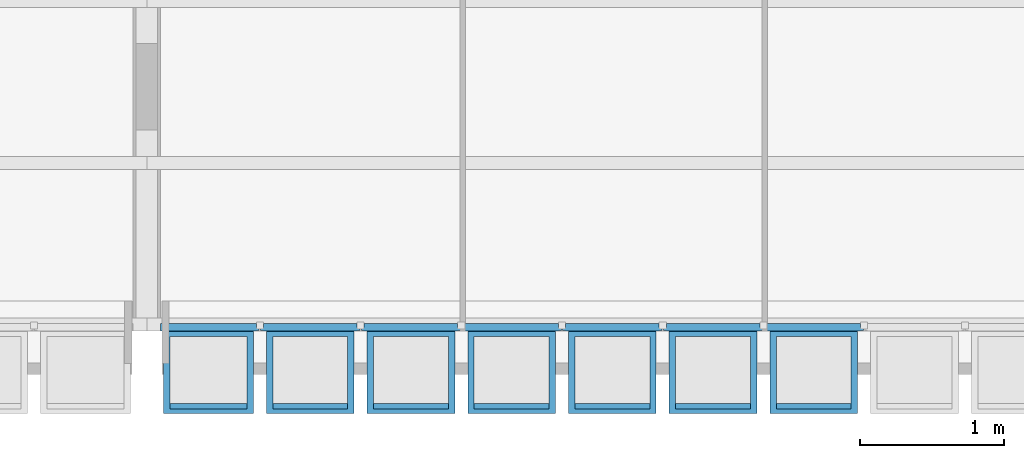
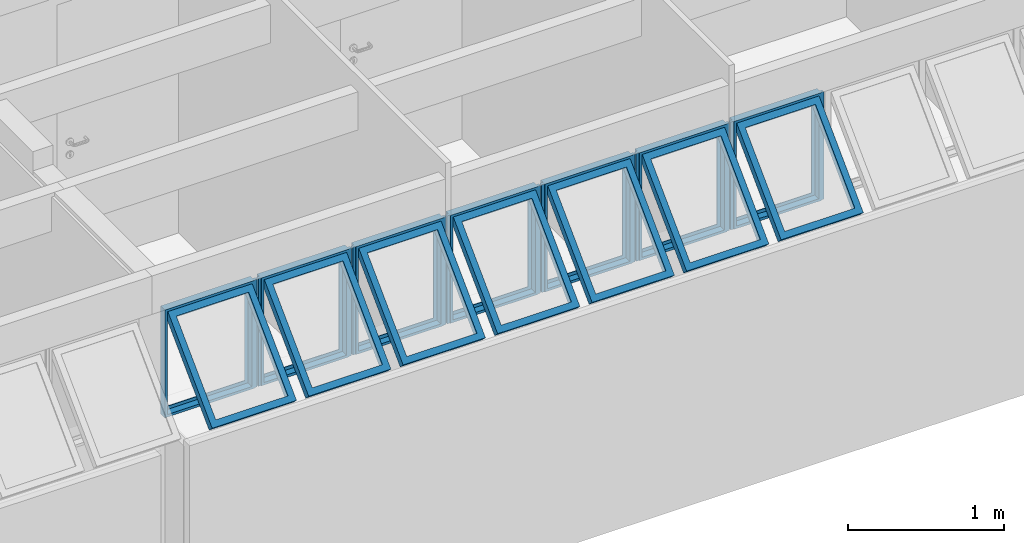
# One storey, part 28 of 38: 7 building element parts, 8 elements without a shape of their own.
"""IFC2X3 building model written with IfcOpenShell, lengths in millimetres."""

from ifc_helpers import new_model, entity, si_unit, converted_unit, derived_unit, money_unit, direction, frame, origin_with_axes, place, context, subcontext, project, spatial, faceted_brep, source, transform, mapped, material, type_object, element, aggregate, save


model = new_model("IFC2X3")

# Units and contexts
model_context = context("Model", 3, precision=0.01, world=origin_with_axes(), true_north=direction((0.0, 1.0)))
body_context = subcontext(model_context, "Body", "Model", "MODEL_VIEW")
ifc_project = project(units=[si_unit("LENGTHUNIT", "METRE", prefix="MILLI"), si_unit("AREAUNIT", "SQUARE_METRE"), si_unit("VOLUMEUNIT", "CUBIC_METRE"), converted_unit("PLANEANGLEUNIT", "DEGREE", entity("IfcPlaneAngleMeasure", 0.0174532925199), si_unit("PLANEANGLEUNIT", "RADIAN"), dimensions=[0, 0, 0, 0, 0, 0, 0]), money_unit("USD"), converted_unit("TIMEUNIT", "Year", entity("IfcTimeMeasure", 31556926.0), si_unit("TIMEUNIT", "SECOND"), dimensions=[0, 0, 1, 0, 0, 0, 0]), si_unit("MASSUNIT", "GRAM", prefix="KILO"), si_unit("THERMODYNAMICTEMPERATUREUNIT", "DEGREE_CELSIUS"), si_unit("LUMINOUSINTENSITYUNIT", "LUMEN"), si_unit("ENERGYUNIT", "JOULE", prefix="MEGA"), derived_unit("THERMALCONDUCTANCEUNIT", [(si_unit("POWERUNIT", "WATT"), 1), (si_unit("LENGTHUNIT", "METRE"), -1), (si_unit("THERMODYNAMICTEMPERATUREUNIT", "KELVIN"), -1)]), derived_unit("SPECIFICHEATCAPACITYUNIT", [(si_unit("ENERGYUNIT", "JOULE"), 1), (si_unit("MASSUNIT", "GRAM", prefix="KILO"), -1), (si_unit("THERMODYNAMICTEMPERATUREUNIT", "KELVIN"), -1)]), derived_unit("MASSDENSITYUNIT", [(si_unit("MASSUNIT", "GRAM", prefix="KILO"), 1), (si_unit("VOLUMEUNIT", "CUBIC_METRE"), -1)])], contexts=[model_context])

# Site, building, storey
site_placement = place(None, origin_with_axes())
site = spatial("IfcSite", under=ifc_project, at=site_placement, Name="Local", CompositionType="ELEMENT")
building_placement = place(site_placement, origin_with_axes())
building = spatial("IfcBuilding", under=site, at=building_placement, Name="Construção", CompositionType="ELEMENT")
storey_placement = place(building_placement, frame((0.0, 0.0, 2650.0), z_axis=(0.0, 0.0, 1.0), x_axis=(1.0, 0.0, 0.0)))
storey = spatial("IfcBuildingStorey", under=building, at=storey_placement, Name="Segundo Pavimento", CompositionType="ELEMENT", Elevation=2650.0)

# Window, plates, building element parts
window_style = type_object("IfcWindowStyle", Name="Tipo de Parede Cortina", ConstructionType="NOTDEFINED", OperationType="NOTDEFINED", ParameterTakesPrecedence=False, Sizeable=False)
window_placement = place(storey_placement, frame((8520.0, 315.020977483, 1355.02054151), z_axis=(0.0, 0.0, 1.0), x_axis=(1.0, 0.0, 0.0)))
window = element("IfcWindow", 1, at=window_placement, inside=storey, type_object=window_style, Name="APTO6-JANELA-001")
plate_type_1 = type_object("IfcPlateType", Name="Painel Principal 690 x 845 x 20", PredefinedType="CURTAIN_PANEL")
plate_1_placement = place(window_placement, frame((0.0, 0.0, 422.499945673), z_axis=(0.0, 0.0, 1.0), x_axis=(1.0, 0.0, 0.0)))
plate_1 = element("IfcPlate", 2, at=plate_1_placement, type_object=plate_type_1, Name="APTO6-Painel-Prin-030")
ifc_material = material(Name="Alumínio")
shared_shape_1 = source(origin_with_axes(), body_context, "Body", "Brep", [
    faceted_brep([(-25.0000036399, 0.0, -40.0), (-25.0000036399, 0.0, -35.0), (-674.999997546, 0.0, -35.0), (-674.999997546, 0.0, -40.0), (-70.0000036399, 45.0, -40.0), (-70.0000036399, 45.0, -35.0), (-629.999997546, 45.0, -35.0), (-629.999997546, 45.0, -40.0)], [[[0, 1, 2, 3]], [[4, 5, 1, 0]], [[1, 5, 6, 2]], [[3, 2, 6, 7]], [[0, 3, 7, 4]], [[7, 6, 5, 4]]]),
    faceted_brep([(-674.999997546, 0.0, -40.0), (-674.999997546, 0.0, -35.0), (-674.999997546, 844.999891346, -35.0), (-674.999997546, 844.999891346, -40.0), (-629.999997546, 45.0, -40.0), (-629.999997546, 45.0, -35.0), (-629.999997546, 799.999891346, -35.0), (-629.999997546, 799.999891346, -40.0)], [[[0, 1, 2, 3]], [[4, 5, 1, 0]], [[1, 5, 6, 2]], [[3, 2, 6, 7]], [[0, 3, 7, 4]], [[7, 6, 5, 4]]]),
    faceted_brep([(-25.0000036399, 844.999891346, -40.0), (-25.0000036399, 844.999891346, -35.0), (-70.0000036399, 799.999891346, -35.0), (-70.0000036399, 799.999891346, -40.0), (-674.999997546, 844.999891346, -40.0), (-674.999997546, 844.999891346, -35.0), (-629.999997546, 799.999891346, -35.0), (-629.999997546, 799.999891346, -40.0)], [[[0, 1, 2, 3]], [[4, 5, 1, 0]], [[1, 5, 6, 2]], [[3, 2, 6, 7]], [[0, 3, 7, 4]], [[7, 6, 5, 4]]]),
    faceted_brep([(-25.0000036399, 0.0, -40.0), (-25.0000036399, 0.0, -35.0), (-70.0000036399, 45.0, -35.0), (-70.0000036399, 45.0, -40.0), (-25.0000036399, 844.999891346, -40.0), (-25.0000036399, 844.999891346, -35.0), (-70.0000036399, 799.999891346, -35.0), (-70.0000036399, 799.999891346, -40.0)], [[[0, 1, 2, 3]], [[4, 5, 1, 0]], [[1, 5, 6, 2]], [[3, 2, 6, 7]], [[0, 3, 7, 4]], [[7, 6, 5, 4]]]),
    faceted_brep([(-25.0000036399, 0.0, -35.0), (-25.0000036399, 0.0, 15.0), (-674.999997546, 0.0, 15.0), (-674.999997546, 0.0, -35.0), (-45.0000036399, 20.0, -35.0), (-45.0000036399, 20.0, 15.0), (-654.999997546, 20.0, 15.0), (-654.999997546, 20.0, -35.0)], [[[0, 1, 2, 3]], [[4, 5, 1, 0]], [[1, 5, 6, 2]], [[3, 2, 6, 7]], [[0, 3, 7, 4]], [[7, 6, 5, 4]]]),
    faceted_brep([(-674.999997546, 0.0, -35.0), (-674.999997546, 0.0, 15.0), (-674.999997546, 844.999891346, 15.0), (-674.999997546, 844.999891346, -35.0), (-654.999997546, 20.0, -35.0), (-654.999997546, 20.0, 15.0), (-654.999997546, 824.999891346, 15.0), (-654.999997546, 824.999891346, -35.0)], [[[0, 1, 2, 3]], [[4, 5, 1, 0]], [[1, 5, 6, 2]], [[3, 2, 6, 7]], [[0, 3, 7, 4]], [[7, 6, 5, 4]]]),
    faceted_brep([(-25.0000036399, 844.999891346, -35.0), (-25.0000036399, 844.999891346, 15.0), (-45.0000036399, 824.999891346, 15.0), (-45.0000036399, 824.999891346, -35.0), (-674.999997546, 844.999891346, -35.0), (-674.999997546, 844.999891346, 15.0), (-654.999997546, 824.999891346, 15.0), (-654.999997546, 824.999891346, -35.0)], [[[0, 1, 2, 3]], [[4, 5, 1, 0]], [[1, 5, 6, 2]], [[3, 2, 6, 7]], [[0, 3, 7, 4]], [[7, 6, 5, 4]]]),
    faceted_brep([(-25.0000036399, 0.0, -35.0), (-25.0000036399, 0.0, 15.0), (-45.0000036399, 20.0, 15.0), (-45.0000036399, 20.0, -35.0), (-25.0000036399, 844.999891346, -35.0), (-25.0000036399, 844.999891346, 15.0), (-45.0000036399, 824.999891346, 15.0), (-45.0000036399, 824.999891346, -35.0)], [[[0, 1, 2, 3]], [[4, 5, 1, 0]], [[1, 5, 6, 2]], [[3, 2, 6, 7]], [[0, 3, 7, 4]], [[7, 6, 5, 4]]]),
    faceted_brep([(-694.999995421, 0.0, -10.0), (-694.999995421, 0.0, 10.0), (-694.999995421, 844.999891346, 10.0), (-694.999995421, 844.999891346, -10.0), (-674.999997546, 0.0, -10.0), (-674.999997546, 0.0, 10.0), (-674.999997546, 844.999891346, 10.0), (-674.999997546, 844.999891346, -10.0)], [[[0, 1, 2, 3]], [[4, 5, 1, 0]], [[1, 5, 6, 2]], [[3, 2, 6, 7]], [[0, 3, 7, 4]], [[7, 6, 5, 4]]]),
    faceted_brep([(-5.00000576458, 844.999891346, -10.0), (-5.00000576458, 844.999891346, 10.0), (-5.00000576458, 0.0, 10.0), (-5.00000576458, 0.0, -10.0), (-25.0000036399, 844.999891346, -10.0), (-25.0000036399, 844.999891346, 10.0), (-25.0000036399, 0.0, 10.0), (-25.0000036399, 0.0, -10.0)], [[[0, 1, 2, 3]], [[4, 5, 1, 0]], [[1, 5, 6, 2]], [[3, 2, 6, 7]], [[0, 3, 7, 4]], [[7, 6, 5, 4]]]),
    faceted_brep([(-90.0000036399, 252.243475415, 517.045737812), (-90.0000036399, 291.13434838, 555.936610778), (-90.0000036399, 796.715620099, 50.3553390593), (-90.0000036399, 757.824747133, 11.4644660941), (-45.0000036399, 220.423670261, 548.865542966), (-45.0000036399, 259.314543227, 587.756415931), (-45.0000036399, 828.535425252, 18.5355339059), (-45.0000036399, 789.644552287, -20.3553390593)], [[[0, 1, 2, 3]], [[4, 5, 1, 0]], [[1, 5, 6, 2]], [[3, 2, 6, 7]], [[0, 3, 7, 4]], [[7, 6, 5, 4]]]),
    faceted_brep([(-654.999997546, 220.423670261, 548.865542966), (-654.999997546, 259.314543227, 587.756415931), (-654.999997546, 828.535425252, 18.5355339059), (-654.999997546, 789.644552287, -20.3553390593), (-609.999997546, 252.243475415, 517.045737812), (-609.999997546, 291.13434838, 555.936610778), (-609.999997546, 796.715620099, 50.3553390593), (-609.999997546, 757.824747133, 11.4644660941)], [[[0, 1, 2, 3]], [[4, 5, 1, 0]], [[1, 5, 6, 2]], [[3, 2, 6, 7]], [[0, 3, 7, 4]], [[7, 6, 5, 4]]]),
    faceted_brep([(-654.999997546, 220.423670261, 548.865542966), (-654.999997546, 259.314543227, 587.756415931), (-609.999997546, 291.13434838, 555.936610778), (-609.999997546, 252.243475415, 517.045737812), (-45.0000036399, 220.423670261, 548.865542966), (-45.0000036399, 259.314543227, 587.756415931), (-90.0000036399, 291.13434838, 555.936610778), (-90.0000036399, 252.243475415, 517.045737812)], [[[0, 1, 2, 3]], [[4, 5, 1, 0]], [[1, 5, 6, 2]], [[3, 2, 6, 7]], [[0, 3, 7, 4]], [[7, 6, 5, 4]]]),
    faceted_brep([(-45.0000036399, 789.644552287, -20.3553390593), (-45.0000036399, 828.535425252, 18.5355339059), (-90.0000036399, 796.715620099, 50.3553390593), (-90.0000036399, 757.824747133, 11.4644660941), (-654.999997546, 789.644552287, -20.3553390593), (-654.999997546, 828.535425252, 18.5355339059), (-609.999997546, 796.715620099, 50.3553390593), (-609.999997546, 757.824747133, 11.4644660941)], [[[0, 1, 2, 3]], [[4, 5, 1, 0]], [[1, 5, 6, 2]], [[3, 2, 6, 7]], [[0, 3, 7, 4]], [[7, 6, 5, 4]]]),
])
building_element_part_1_placement = place(plate_1_placement, origin_with_axes())
building_element_part_1 = element("IfcBuildingElementPart", 3, at=building_element_part_1_placement, material=ifc_material, Name="Alumínio", context=body_context, shape_type="MappedRepresentation", body=[
    mapped(shared_shape_1, transform((350.0, 0.0, -422.499945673), x_axis=(1.0, 0.0, 0.0), y_axis=(0.0, 0.0, 1.0), z_axis=(0.0, -1.0, 0.0))),
])
aggregate(plate_1, [building_element_part_1])
plate_2_placement = place(window_placement, frame((700.0, 0.0, 422.499945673), z_axis=(0.0, 0.0, 1.0), x_axis=(1.0, 0.0, 0.0)))
plate_2 = element("IfcPlate", 4, at=plate_2_placement, type_object=plate_type_1, Name="APTO6-Painel-Prin-020")
building_element_part_2_placement = place(plate_2_placement, origin_with_axes())
building_element_part_2 = element("IfcBuildingElementPart", 5, at=building_element_part_2_placement, material=ifc_material, Name="Alumínio", context=body_context, shape_type="MappedRepresentation", body=[
    mapped(shared_shape_1, transform((350.0, 0.0, -422.499945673), x_axis=(1.0, 0.0, 0.0), y_axis=(0.0, 0.0, 1.0), z_axis=(0.0, -1.0, 0.0))),
])
aggregate(plate_2, [building_element_part_2])
plate_3_placement = place(window_placement, frame((1400.0, 0.0, 422.499945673), z_axis=(0.0, 0.0, 1.0), x_axis=(1.0, 0.0, 0.0)))
plate_3 = element("IfcPlate", 6, at=plate_3_placement, type_object=plate_type_1, Name="APTO6-Painel-Prin-029")
building_element_part_3_placement = place(plate_3_placement, origin_with_axes())
building_element_part_3 = element("IfcBuildingElementPart", 7, at=building_element_part_3_placement, material=ifc_material, Name="Alumínio", context=body_context, shape_type="MappedRepresentation", body=[
    mapped(shared_shape_1, transform((350.0, 0.0, -422.499945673), x_axis=(1.0, 0.0, 0.0), y_axis=(0.0, 0.0, 1.0), z_axis=(0.0, -1.0, 0.0))),
])
aggregate(plate_3, [building_element_part_3])
plate_4_placement = place(window_placement, frame((3500.0, 0.0, 422.499945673), z_axis=(0.0, 0.0, 1.0), x_axis=(1.0, 0.0, 0.0)))
plate_4 = element("IfcPlate", 8, at=plate_4_placement, type_object=plate_type_1, Name="APTO6-Painel-Prin-013")
building_element_part_4_placement = place(plate_4_placement, origin_with_axes())
building_element_part_4 = element("IfcBuildingElementPart", 9, at=building_element_part_4_placement, material=ifc_material, Name="Alumínio", context=body_context, shape_type="MappedRepresentation", body=[
    mapped(shared_shape_1, transform((350.0, 0.0, -422.499945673), x_axis=(1.0, 0.0, 0.0), y_axis=(0.0, 0.0, 1.0), z_axis=(0.0, -1.0, 0.0))),
])
aggregate(plate_4, [building_element_part_4])
plate_5_placement = place(window_placement, frame((2100.0, 0.0, 422.499945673), z_axis=(0.0, 0.0, 1.0), x_axis=(1.0, 0.0, 0.0)))
plate_5 = element("IfcPlate", 10, at=plate_5_placement, type_object=plate_type_1, Name="APTO6-Painel-Prin-025")
shared_shape_2 = source(origin_with_axes(), body_context, "Body", "Brep", [
    faceted_brep([(-25.0000036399, 0.0, -40.0), (-25.0000036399, 0.0, -35.0), (-674.999997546, 0.0, -35.0), (-674.999997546, 0.0, -40.0), (-70.0000036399, 45.0, -40.0), (-70.0000036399, 45.0, -35.0), (-629.999997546, 45.0, -35.0), (-629.999997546, 45.0, -40.0)], [[[0, 1, 2, 3]], [[4, 5, 1, 0]], [[1, 5, 6, 2]], [[3, 2, 6, 7]], [[0, 3, 7, 4]], [[7, 6, 5, 4]]]),
    faceted_brep([(-674.999997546, 0.0, -40.0), (-674.999997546, 0.0, -35.0), (-674.999997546, 844.999891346, -35.0), (-674.999997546, 844.999891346, -40.0), (-629.999997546, 45.0, -40.0), (-629.999997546, 45.0, -35.0), (-629.999997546, 799.999891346, -35.0), (-629.999997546, 799.999891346, -40.0)], [[[0, 1, 2, 3]], [[4, 5, 1, 0]], [[1, 5, 6, 2]], [[3, 2, 6, 7]], [[0, 3, 7, 4]], [[7, 6, 5, 4]]]),
    faceted_brep([(-25.0000036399, 844.999891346, -40.0), (-25.0000036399, 844.999891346, -35.0), (-70.0000036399, 799.999891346, -35.0), (-70.0000036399, 799.999891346, -40.0), (-674.999997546, 844.999891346, -40.0), (-674.999997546, 844.999891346, -35.0), (-629.999997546, 799.999891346, -35.0), (-629.999997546, 799.999891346, -40.0)], [[[0, 1, 2, 3]], [[4, 5, 1, 0]], [[1, 5, 6, 2]], [[3, 2, 6, 7]], [[0, 3, 7, 4]], [[7, 6, 5, 4]]]),
    faceted_brep([(-25.0000036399, 0.0, -40.0), (-25.0000036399, 0.0, -35.0), (-70.0000036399, 45.0, -35.0), (-70.0000036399, 45.0, -40.0), (-25.0000036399, 844.999891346, -40.0), (-25.0000036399, 844.999891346, -35.0), (-70.0000036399, 799.999891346, -35.0), (-70.0000036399, 799.999891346, -40.0)], [[[0, 1, 2, 3]], [[4, 5, 1, 0]], [[1, 5, 6, 2]], [[3, 2, 6, 7]], [[0, 3, 7, 4]], [[7, 6, 5, 4]]]),
    faceted_brep([(-25.0000036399, 0.0, -35.0), (-25.0000036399, 0.0, 15.0), (-674.999997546, 0.0, 15.0), (-674.999997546, 0.0, -35.0), (-45.0000036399, 20.0, -35.0), (-45.0000036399, 20.0, 15.0), (-654.999997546, 20.0, 15.0), (-654.999997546, 20.0, -35.0)], [[[0, 1, 2, 3]], [[4, 5, 1, 0]], [[1, 5, 6, 2]], [[3, 2, 6, 7]], [[0, 3, 7, 4]], [[7, 6, 5, 4]]]),
    faceted_brep([(-674.999997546, 0.0, -35.0), (-674.999997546, 0.0, 15.0), (-674.999997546, 844.999891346, 15.0), (-674.999997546, 844.999891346, -35.0), (-654.999997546, 20.0, -35.0), (-654.999997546, 20.0, 15.0), (-654.999997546, 824.999891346, 15.0), (-654.999997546, 824.999891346, -35.0)], [[[0, 1, 2, 3]], [[4, 5, 1, 0]], [[1, 5, 6, 2]], [[3, 2, 6, 7]], [[0, 3, 7, 4]], [[7, 6, 5, 4]]]),
    faceted_brep([(-25.0000036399, 844.999891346, -35.0), (-25.0000036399, 844.999891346, 15.0), (-45.0000036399, 824.999891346, 15.0), (-45.0000036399, 824.999891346, -35.0), (-674.999997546, 844.999891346, -35.0), (-674.999997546, 844.999891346, 15.0), (-654.999997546, 824.999891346, 15.0), (-654.999997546, 824.999891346, -35.0)], [[[0, 1, 2, 3]], [[4, 5, 1, 0]], [[1, 5, 6, 2]], [[3, 2, 6, 7]], [[0, 3, 7, 4]], [[7, 6, 5, 4]]]),
    faceted_brep([(-25.0000036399, 0.0, -35.0), (-25.0000036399, 0.0, 15.0), (-45.0000036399, 20.0, 15.0), (-45.0000036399, 20.0, -35.0), (-25.0000036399, 844.999891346, -35.0), (-25.0000036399, 844.999891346, 15.0), (-45.0000036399, 824.999891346, 15.0), (-45.0000036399, 824.999891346, -35.0)], [[[0, 1, 2, 3]], [[4, 5, 1, 0]], [[1, 5, 6, 2]], [[3, 2, 6, 7]], [[0, 3, 7, 4]], [[7, 6, 5, 4]]]),
    faceted_brep([(-694.999995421, 0.0, -10.0), (-694.999995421, 0.0, 10.0), (-694.999995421, 844.999891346, 10.0), (-694.999995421, 844.999891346, -10.0), (-674.999997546, 0.0, -10.0), (-674.999997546, 0.0, 10.0), (-674.999997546, 844.999891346, 10.0), (-674.999997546, 844.999891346, -10.0)], [[[0, 1, 2, 3]], [[4, 5, 1, 0]], [[1, 5, 6, 2]], [[3, 2, 6, 7]], [[0, 3, 7, 4]], [[7, 6, 5, 4]]]),
    faceted_brep([(-5.00000576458, 844.999891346, -10.0), (-5.00000576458, 844.999891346, 10.0), (-5.00000576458, 0.0, 10.0), (-5.00000576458, 0.0, -10.0), (-25.0000036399, 844.999891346, -10.0), (-25.0000036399, 844.999891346, 10.0), (-25.0000036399, 0.0, 10.0), (-25.0000036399, 0.0, -10.0)], [[[0, 1, 2, 3]], [[4, 5, 1, 0]], [[1, 5, 6, 2]], [[3, 2, 6, 7]], [[0, 3, 7, 4]], [[7, 6, 5, 4]]]),
    faceted_brep([(-90.0000036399, 252.243475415, 517.045737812), (-90.0000036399, 291.13434838, 555.936610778), (-90.0000036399, 796.715620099, 50.3553390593), (-90.0000036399, 757.824747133, 11.4644660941), (-45.0000036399, 220.423670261, 548.865542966), (-45.0000036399, 259.314543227, 587.756415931), (-45.0000036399, 828.535425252, 18.5355339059), (-45.0000036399, 789.644552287, -20.3553390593)], [[[0, 1, 2, 3]], [[4, 5, 1, 0]], [[1, 5, 6, 2]], [[3, 2, 6, 7]], [[0, 3, 7, 4]], [[7, 6, 5, 4]]]),
    faceted_brep([(-654.999997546, 220.423670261, 548.865542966), (-654.999997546, 259.314543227, 587.756415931), (-654.999997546, 828.535425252, 18.5355339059), (-654.999997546, 789.644552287, -20.3553390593), (-609.999997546, 252.243475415, 517.045737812), (-609.999997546, 291.13434838, 555.936610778), (-609.999997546, 796.715620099, 50.3553390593), (-609.999997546, 757.824747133, 11.4644660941)], [[[0, 1, 2, 3]], [[4, 5, 1, 0]], [[1, 5, 6, 2]], [[3, 2, 6, 7]], [[0, 3, 7, 4]], [[7, 6, 5, 4]]]),
    faceted_brep([(-654.999997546, 220.423670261, 548.865542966), (-654.999997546, 259.314543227, 587.756415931), (-609.999997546, 291.13434838, 555.936610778), (-609.999997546, 252.243475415, 517.045737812), (-45.0000036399, 220.423670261, 548.865542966), (-45.0000036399, 259.314543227, 587.756415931), (-90.0000036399, 291.13434838, 555.936610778), (-90.0000036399, 252.243475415, 517.045737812)], [[[0, 1, 2, 3]], [[4, 5, 1, 0]], [[1, 5, 6, 2]], [[3, 2, 6, 7]], [[0, 3, 7, 4]], [[7, 6, 5, 4]]]),
    faceted_brep([(-45.0000036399, 789.644552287, -20.3553390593), (-45.0000036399, 828.535425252, 18.5355339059), (-90.0000036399, 796.715620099, 50.3553390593), (-90.0000036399, 757.824747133, 11.4644660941), (-654.999997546, 789.644552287, -20.3553390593), (-654.999997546, 828.535425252, 18.5355339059), (-609.999997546, 796.715620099, 50.3553390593), (-609.999997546, 757.824747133, 11.4644660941)], [[[0, 1, 2, 3]], [[4, 5, 1, 0]], [[1, 5, 6, 2]], [[3, 2, 6, 7]], [[0, 3, 7, 4]], [[7, 6, 5, 4]]]),
])
building_element_part_5_placement = place(plate_5_placement, origin_with_axes())
building_element_part_5 = element("IfcBuildingElementPart", 11, at=building_element_part_5_placement, material=ifc_material, Name="Alumínio", context=body_context, shape_type="MappedRepresentation", body=[
    mapped(shared_shape_2, transform((350.0, 0.0, -422.499945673), x_axis=(1.0, 0.0, 0.0), y_axis=(0.0, 0.0, 1.0), z_axis=(0.0, -1.0, 0.0))),
])
aggregate(plate_5, [building_element_part_5])
plate_6_placement = place(window_placement, frame((2800.0, 0.0, 422.499945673), z_axis=(0.0, 0.0, 1.0), x_axis=(1.0, 0.0, 0.0)))
plate_6 = element("IfcPlate", 12, at=plate_6_placement, type_object=plate_type_1, Name="APTO6-Painel-Prin-013")
shared_shape_3 = source(origin_with_axes(), body_context, "Body", "Brep", [
    faceted_brep([(-25.0000036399, 0.0, -40.0), (-25.0000036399, 0.0, -35.0), (-674.999997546, 0.0, -35.0), (-674.999997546, 0.0, -40.0), (-70.0000036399, 45.0, -40.0), (-70.0000036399, 45.0, -35.0), (-629.999997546, 45.0, -35.0), (-629.999997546, 45.0, -40.0)], [[[0, 1, 2, 3]], [[4, 5, 1, 0]], [[1, 5, 6, 2]], [[3, 2, 6, 7]], [[0, 3, 7, 4]], [[7, 6, 5, 4]]]),
    faceted_brep([(-674.999997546, 0.0, -40.0), (-674.999997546, 0.0, -35.0), (-674.999997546, 844.999891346, -35.0), (-674.999997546, 844.999891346, -40.0), (-629.999997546, 45.0, -40.0), (-629.999997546, 45.0, -35.0), (-629.999997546, 799.999891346, -35.0), (-629.999997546, 799.999891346, -40.0)], [[[0, 1, 2, 3]], [[4, 5, 1, 0]], [[1, 5, 6, 2]], [[3, 2, 6, 7]], [[0, 3, 7, 4]], [[7, 6, 5, 4]]]),
    faceted_brep([(-25.0000036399, 844.999891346, -40.0), (-25.0000036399, 844.999891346, -35.0), (-70.0000036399, 799.999891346, -35.0), (-70.0000036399, 799.999891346, -40.0), (-674.999997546, 844.999891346, -40.0), (-674.999997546, 844.999891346, -35.0), (-629.999997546, 799.999891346, -35.0), (-629.999997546, 799.999891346, -40.0)], [[[0, 1, 2, 3]], [[4, 5, 1, 0]], [[1, 5, 6, 2]], [[3, 2, 6, 7]], [[0, 3, 7, 4]], [[7, 6, 5, 4]]]),
    faceted_brep([(-25.0000036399, 0.0, -40.0), (-25.0000036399, 0.0, -35.0), (-70.0000036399, 45.0, -35.0), (-70.0000036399, 45.0, -40.0), (-25.0000036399, 844.999891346, -40.0), (-25.0000036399, 844.999891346, -35.0), (-70.0000036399, 799.999891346, -35.0), (-70.0000036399, 799.999891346, -40.0)], [[[0, 1, 2, 3]], [[4, 5, 1, 0]], [[1, 5, 6, 2]], [[3, 2, 6, 7]], [[0, 3, 7, 4]], [[7, 6, 5, 4]]]),
    faceted_brep([(-25.0000036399, 0.0, -35.0), (-25.0000036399, 0.0, 15.0), (-674.999997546, 0.0, 15.0), (-674.999997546, 0.0, -35.0), (-45.0000036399, 20.0, -35.0), (-45.0000036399, 20.0, 15.0), (-654.999997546, 20.0, 15.0), (-654.999997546, 20.0, -35.0)], [[[0, 1, 2, 3]], [[4, 5, 1, 0]], [[1, 5, 6, 2]], [[3, 2, 6, 7]], [[0, 3, 7, 4]], [[7, 6, 5, 4]]]),
    faceted_brep([(-674.999997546, 0.0, -35.0), (-674.999997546, 0.0, 15.0), (-674.999997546, 844.999891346, 15.0), (-674.999997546, 844.999891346, -35.0), (-654.999997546, 20.0, -35.0), (-654.999997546, 20.0, 15.0), (-654.999997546, 824.999891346, 15.0), (-654.999997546, 824.999891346, -35.0)], [[[0, 1, 2, 3]], [[4, 5, 1, 0]], [[1, 5, 6, 2]], [[3, 2, 6, 7]], [[0, 3, 7, 4]], [[7, 6, 5, 4]]]),
    faceted_brep([(-25.0000036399, 844.999891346, -35.0), (-25.0000036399, 844.999891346, 15.0), (-45.0000036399, 824.999891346, 15.0), (-45.0000036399, 824.999891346, -35.0), (-674.999997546, 844.999891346, -35.0), (-674.999997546, 844.999891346, 15.0), (-654.999997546, 824.999891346, 15.0), (-654.999997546, 824.999891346, -35.0)], [[[0, 1, 2, 3]], [[4, 5, 1, 0]], [[1, 5, 6, 2]], [[3, 2, 6, 7]], [[0, 3, 7, 4]], [[7, 6, 5, 4]]]),
    faceted_brep([(-25.0000036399, 0.0, -35.0), (-25.0000036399, 0.0, 15.0), (-45.0000036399, 20.0, 15.0), (-45.0000036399, 20.0, -35.0), (-25.0000036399, 844.999891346, -35.0), (-25.0000036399, 844.999891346, 15.0), (-45.0000036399, 824.999891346, 15.0), (-45.0000036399, 824.999891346, -35.0)], [[[0, 1, 2, 3]], [[4, 5, 1, 0]], [[1, 5, 6, 2]], [[3, 2, 6, 7]], [[0, 3, 7, 4]], [[7, 6, 5, 4]]]),
    faceted_brep([(-694.999995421, 0.0, -10.0), (-694.999995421, 0.0, 10.0), (-694.999995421, 844.999891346, 10.0), (-694.999995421, 844.999891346, -10.0), (-674.999997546, 0.0, -10.0), (-674.999997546, 0.0, 10.0), (-674.999997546, 844.999891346, 10.0), (-674.999997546, 844.999891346, -10.0)], [[[0, 1, 2, 3]], [[4, 5, 1, 0]], [[1, 5, 6, 2]], [[3, 2, 6, 7]], [[0, 3, 7, 4]], [[7, 6, 5, 4]]]),
    faceted_brep([(-5.00000576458, 844.999891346, -10.0), (-5.00000576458, 844.999891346, 10.0), (-5.00000576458, 0.0, 10.0), (-5.00000576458, 0.0, -10.0), (-25.0000036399, 844.999891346, -10.0), (-25.0000036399, 844.999891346, 10.0), (-25.0000036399, 0.0, 10.0), (-25.0000036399, 0.0, -10.0)], [[[0, 1, 2, 3]], [[4, 5, 1, 0]], [[1, 5, 6, 2]], [[3, 2, 6, 7]], [[0, 3, 7, 4]], [[7, 6, 5, 4]]]),
    faceted_brep([(-90.0000036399, 252.243475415, 517.045737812), (-90.0000036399, 291.13434838, 555.936610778), (-90.0000036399, 796.715620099, 50.3553390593), (-90.0000036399, 757.824747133, 11.4644660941), (-45.0000036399, 220.423670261, 548.865542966), (-45.0000036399, 259.314543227, 587.756415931), (-45.0000036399, 828.535425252, 18.5355339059), (-45.0000036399, 789.644552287, -20.3553390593)], [[[0, 1, 2, 3]], [[4, 5, 1, 0]], [[1, 5, 6, 2]], [[3, 2, 6, 7]], [[0, 3, 7, 4]], [[7, 6, 5, 4]]]),
    faceted_brep([(-654.999997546, 220.423670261, 548.865542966), (-654.999997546, 259.314543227, 587.756415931), (-654.999997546, 828.535425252, 18.5355339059), (-654.999997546, 789.644552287, -20.3553390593), (-609.999997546, 252.243475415, 517.045737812), (-609.999997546, 291.13434838, 555.936610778), (-609.999997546, 796.715620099, 50.3553390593), (-609.999997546, 757.824747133, 11.4644660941)], [[[0, 1, 2, 3]], [[4, 5, 1, 0]], [[1, 5, 6, 2]], [[3, 2, 6, 7]], [[0, 3, 7, 4]], [[7, 6, 5, 4]]]),
    faceted_brep([(-654.999997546, 220.423670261, 548.865542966), (-654.999997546, 259.314543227, 587.756415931), (-609.999997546, 291.13434838, 555.936610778), (-609.999997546, 252.243475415, 517.045737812), (-45.0000036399, 220.423670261, 548.865542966), (-45.0000036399, 259.314543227, 587.756415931), (-90.0000036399, 291.13434838, 555.936610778), (-90.0000036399, 252.243475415, 517.045737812)], [[[0, 1, 2, 3]], [[4, 5, 1, 0]], [[1, 5, 6, 2]], [[3, 2, 6, 7]], [[0, 3, 7, 4]], [[7, 6, 5, 4]]]),
    faceted_brep([(-45.0000036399, 789.644552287, -20.3553390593), (-45.0000036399, 828.535425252, 18.5355339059), (-90.0000036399, 796.715620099, 50.3553390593), (-90.0000036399, 757.824747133, 11.4644660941), (-654.999997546, 789.644552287, -20.3553390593), (-654.999997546, 828.535425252, 18.5355339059), (-609.999997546, 796.715620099, 50.3553390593), (-609.999997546, 757.824747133, 11.4644660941)], [[[0, 1, 2, 3]], [[4, 5, 1, 0]], [[1, 5, 6, 2]], [[3, 2, 6, 7]], [[0, 3, 7, 4]], [[7, 6, 5, 4]]]),
])
building_element_part_6_placement = place(plate_6_placement, origin_with_axes())
building_element_part_6 = element("IfcBuildingElementPart", 13, at=building_element_part_6_placement, material=ifc_material, Name="Alumínio", context=body_context, shape_type="MappedRepresentation", body=[
    mapped(shared_shape_3, transform((350.0, 0.0, -422.499945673), x_axis=(1.0, 0.0, 0.0), y_axis=(0.0, 0.0, 1.0), z_axis=(0.0, -1.0, 0.0))),
])
aggregate(plate_6, [building_element_part_6])
plate_type_2 = type_object("IfcPlateType", Name="Painel Principal 685 x 845 x 20", PredefinedType="CURTAIN_PANEL")
plate_7_placement = place(window_placement, frame((-695.000037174, 0.0, 422.499953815), z_axis=(0.0, 0.0, 1.0), x_axis=(1.0, 0.0, 0.0)))
plate_7 = element("IfcPlate", 14, at=plate_7_placement, type_object=plate_type_2, Name="APTO6-Painel-Prin-031")
aggregate(window, [plate_1, plate_7, plate_6, plate_5, plate_2, plate_3, plate_4])
shared_shape_4 = source(origin_with_axes(), body_context, "Body", "Brep", [
    faceted_brep([(-25.0000046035, 0.0, -40.0), (-25.0000046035, 0.0, -35.0), (-690.000079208, 0.0, -35.0), (-690.000079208, 0.0, -40.0), (-70.0000046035, 45.0, -40.0), (-70.0000046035, 45.0, -35.0), (-645.000079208, 45.0, -35.0), (-645.000079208, 45.0, -40.0)], [[[0, 1, 2, 3]], [[4, 5, 1, 0]], [[1, 5, 6, 2]], [[3, 2, 6, 7]], [[0, 3, 7, 4]], [[7, 6, 5, 4]]]),
    faceted_brep([(-690.000079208, 0.0, -40.0), (-690.000079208, 0.0, -35.0), (-690.000079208, 844.999923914, -35.0), (-690.000079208, 844.999923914, -40.0), (-645.000079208, 45.0, -40.0), (-645.000079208, 45.0, -35.0), (-645.000079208, 799.999923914, -35.0), (-645.000079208, 799.999923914, -40.0)], [[[0, 1, 2, 3]], [[4, 5, 1, 0]], [[1, 5, 6, 2]], [[3, 2, 6, 7]], [[0, 3, 7, 4]], [[7, 6, 5, 4]]]),
    faceted_brep([(-25.0000046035, 844.999923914, -40.0), (-25.0000046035, 844.999923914, -35.0), (-70.0000046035, 799.999923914, -35.0), (-70.0000046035, 799.999923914, -40.0), (-690.000079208, 844.999923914, -40.0), (-690.000079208, 844.999923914, -35.0), (-645.000079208, 799.999923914, -35.0), (-645.000079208, 799.999923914, -40.0)], [[[0, 1, 2, 3]], [[4, 5, 1, 0]], [[1, 5, 6, 2]], [[3, 2, 6, 7]], [[0, 3, 7, 4]], [[7, 6, 5, 4]]]),
    faceted_brep([(-25.0000046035, 0.0, -40.0), (-25.0000046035, 0.0, -35.0), (-70.0000046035, 45.0, -35.0), (-70.0000046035, 45.0, -40.0), (-25.0000046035, 844.999923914, -40.0), (-25.0000046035, 844.999923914, -35.0), (-70.0000046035, 799.999923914, -35.0), (-70.0000046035, 799.999923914, -40.0)], [[[0, 1, 2, 3]], [[4, 5, 1, 0]], [[1, 5, 6, 2]], [[3, 2, 6, 7]], [[0, 3, 7, 4]], [[7, 6, 5, 4]]]),
    faceted_brep([(-25.0000046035, 0.0, -35.0), (-25.0000046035, 0.0, 15.0), (-690.000079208, 0.0, 15.0), (-690.000079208, 0.0, -35.0), (-45.0000046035, 20.0, -35.0), (-45.0000046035, 20.0, 15.0), (-670.000079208, 20.0, 15.0), (-670.000079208, 20.0, -35.0)], [[[0, 1, 2, 3]], [[4, 5, 1, 0]], [[1, 5, 6, 2]], [[3, 2, 6, 7]], [[0, 3, 7, 4]], [[7, 6, 5, 4]]]),
    faceted_brep([(-690.000079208, 0.0, -35.0), (-690.000079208, 0.0, 15.0), (-690.000079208, 844.999923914, 15.0), (-690.000079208, 844.999923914, -35.0), (-670.000079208, 20.0, -35.0), (-670.000079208, 20.0, 15.0), (-670.000079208, 824.999923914, 15.0), (-670.000079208, 824.999923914, -35.0)], [[[0, 1, 2, 3]], [[4, 5, 1, 0]], [[1, 5, 6, 2]], [[3, 2, 6, 7]], [[0, 3, 7, 4]], [[7, 6, 5, 4]]]),
    faceted_brep([(-25.0000046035, 844.999923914, -35.0), (-25.0000046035, 844.999923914, 15.0), (-45.0000046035, 824.999923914, 15.0), (-45.0000046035, 824.999923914, -35.0), (-690.000079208, 844.999923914, -35.0), (-690.000079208, 844.999923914, 15.0), (-670.000079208, 824.999923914, 15.0), (-670.000079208, 824.999923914, -35.0)], [[[0, 1, 2, 3]], [[4, 5, 1, 0]], [[1, 5, 6, 2]], [[3, 2, 6, 7]], [[0, 3, 7, 4]], [[7, 6, 5, 4]]]),
    faceted_brep([(-25.0000046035, 0.0, -35.0), (-25.0000046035, 0.0, 15.0), (-45.0000046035, 20.0, 15.0), (-45.0000046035, 20.0, -35.0), (-25.0000046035, 844.999923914, -35.0), (-25.0000046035, 844.999923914, 15.0), (-45.0000046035, 824.999923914, 15.0), (-45.0000046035, 824.999923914, -35.0)], [[[0, 1, 2, 3]], [[4, 5, 1, 0]], [[1, 5, 6, 2]], [[3, 2, 6, 7]], [[0, 3, 7, 4]], [[7, 6, 5, 4]]]),
    faceted_brep([(-5.00000595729, 844.999923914, -10.0), (-5.00000595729, 844.999923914, 10.0), (-5.00000595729, 0.0, 10.0), (-5.00000595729, 0.0, -10.0), (-25.0000046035, 844.999923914, -10.0), (-25.0000046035, 844.999923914, 10.0), (-25.0000046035, 0.0, 10.0), (-25.0000046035, 0.0, -10.0)], [[[0, 1, 2, 3]], [[4, 5, 1, 0]], [[1, 5, 6, 2]], [[3, 2, 6, 7]], [[0, 3, 7, 4]], [[7, 6, 5, 4]]]),
    faceted_brep([(-90.0000046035, 252.243484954, 517.045760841), (-90.0000046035, 291.134357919, 555.936633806), (-90.0000046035, 796.715652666, 50.3553390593), (-90.0000046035, 757.824779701, 11.4644660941), (-45.0000046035, 220.4236798, 548.865565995), (-45.0000046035, 259.314552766, 587.75643896), (-45.0000046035, 828.535457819, 18.5355339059), (-45.0000046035, 789.644584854, -20.3553390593)], [[[0, 1, 2, 3]], [[4, 5, 1, 0]], [[1, 5, 6, 2]], [[3, 2, 6, 7]], [[0, 3, 7, 4]], [[7, 6, 5, 4]]]),
    faceted_brep([(-670.000079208, 220.4236798, 548.865565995), (-670.000079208, 259.314552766, 587.75643896), (-670.000079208, 828.535457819, 18.5355339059), (-670.000079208, 789.644584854, -20.3553390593), (-625.000079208, 252.243484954, 517.045760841), (-625.000079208, 291.134357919, 555.936633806), (-625.000079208, 796.715652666, 50.3553390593), (-625.000079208, 757.824779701, 11.4644660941)], [[[0, 1, 2, 3]], [[4, 5, 1, 0]], [[1, 5, 6, 2]], [[3, 2, 6, 7]], [[0, 3, 7, 4]], [[7, 6, 5, 4]]]),
    faceted_brep([(-670.000079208, 220.4236798, 548.865565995), (-670.000079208, 259.314552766, 587.75643896), (-625.000079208, 291.134357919, 555.936633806), (-625.000079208, 252.243484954, 517.045760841), (-45.0000046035, 220.4236798, 548.865565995), (-45.0000046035, 259.314552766, 587.75643896), (-90.0000046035, 291.134357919, 555.936633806), (-90.0000046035, 252.243484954, 517.045760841)], [[[0, 1, 2, 3]], [[4, 5, 1, 0]], [[1, 5, 6, 2]], [[3, 2, 6, 7]], [[0, 3, 7, 4]], [[7, 6, 5, 4]]]),
    faceted_brep([(-45.0000046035, 789.644584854, -20.3553390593), (-45.0000046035, 828.535457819, 18.5355339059), (-90.0000046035, 796.715652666, 50.3553390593), (-90.0000046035, 757.824779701, 11.4644660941), (-670.000079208, 789.644584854, -20.3553390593), (-670.000079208, 828.535457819, 18.5355339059), (-625.000079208, 796.715652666, 50.3553390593), (-625.000079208, 757.824779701, 11.4644660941)], [[[0, 1, 2, 3]], [[4, 5, 1, 0]], [[1, 5, 6, 2]], [[3, 2, 6, 7]], [[0, 3, 7, 4]], [[7, 6, 5, 4]]]),
])
building_element_part_7_placement = place(plate_7_placement, origin_with_axes())
building_element_part_7 = element("IfcBuildingElementPart", 15, at=building_element_part_7_placement, material=ifc_material, Name="Alumínio", context=body_context, shape_type="MappedRepresentation", body=[
    mapped(shared_shape_4, transform((345.000037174, 0.0, -422.499953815), x_axis=(1.0, 0.0, 0.0), y_axis=(0.0, 0.0, 1.0), z_axis=(0.0, -1.0, 0.0))),
])
aggregate(plate_7, [building_element_part_7])

save(model, "model.ifc")
